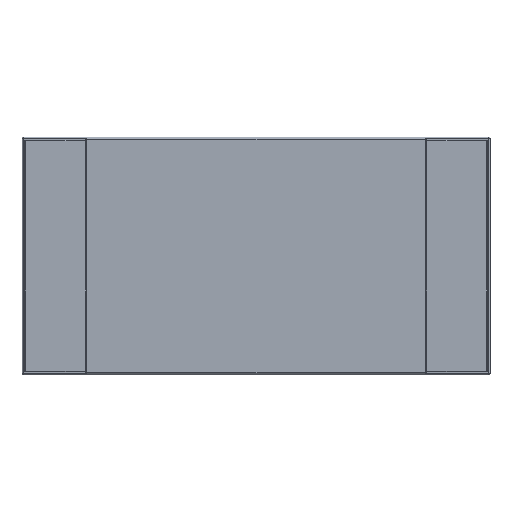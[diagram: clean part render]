
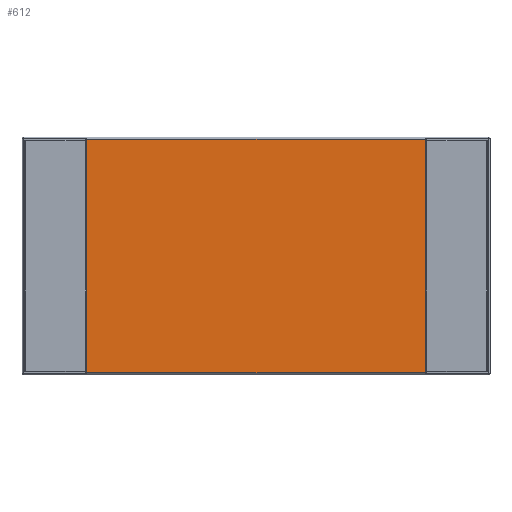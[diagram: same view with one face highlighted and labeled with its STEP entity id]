
A CAD part, top view. The second image highlights one B-rep face of the part: STEP entity #612.
In plain terms, the highlighted planar face has unit normal (0, 0, 1).
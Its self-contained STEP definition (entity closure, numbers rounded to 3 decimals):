
#612=ADVANCED_FACE('',(#1315),#1317,.T.);
#1315=FACE_BOUND('',#1316,.T.);
#1316=EDGE_LOOP('',(#1774,#1775,#1776,#1777));
#1317=PLANE('',#1318);
#1318=AXIS2_PLACEMENT_3D('',#1319,#1320,#1321);
#1319=CARTESIAN_POINT('',(0.,0.,0.585));
#1320=DIRECTION('',(0.,0.,1.));
#1321=DIRECTION('',(-1.,0.,0.));
#1774=ORIENTED_EDGE('',*,*,#2052,.T.);
#1775=ORIENTED_EDGE('',*,*,#2053,.T.);
#1776=ORIENTED_EDGE('',*,*,#2054,.T.);
#1777=ORIENTED_EDGE('',*,*,#2055,.T.);
#2052=EDGE_CURVE('',#2315,#2316,#2317,.T.);
#2053=EDGE_CURVE('',#2316,#2318,#2319,.T.);
#2054=EDGE_CURVE('',#2318,#2320,#2321,.T.);
#2055=EDGE_CURVE('',#2320,#2315,#2322,.T.);
#2315=VERTEX_POINT('',#2900);
#2316=VERTEX_POINT('',#2901);
#2317=LINE('',#2902,#2903);
#2318=VERTEX_POINT('',#2905);
#2319=LINE('',#2906,#2907);
#2320=VERTEX_POINT('',#2909);
#2321=LINE('',#2910,#2911);
#2322=LINE('',#2913,#2914);
#2900=CARTESIAN_POINT('',(-2.28,-1.574,0.585));
#2901=CARTESIAN_POINT('',(2.28,-1.574,0.585));
#2902=CARTESIAN_POINT('',(-2.28,-1.574,0.585));
#2903=VECTOR('',#2904,1.);
#2904=DIRECTION('',(1.,0.,0.));
#2905=CARTESIAN_POINT('',(2.28,1.574,0.585));
#2906=CARTESIAN_POINT('',(2.28,-1.574,0.585));
#2907=VECTOR('',#2908,1.);
#2908=DIRECTION('',(0.,1.,0.));
#2909=CARTESIAN_POINT('',(-2.28,1.574,0.585));
#2910=CARTESIAN_POINT('',(2.28,1.574,0.585));
#2911=VECTOR('',#2912,1.);
#2912=DIRECTION('',(-1.,0.,0.));
#2913=CARTESIAN_POINT('',(-2.28,1.574,0.585));
#2914=VECTOR('',#2915,1.);
#2915=DIRECTION('',(0.,-1.,0.));
